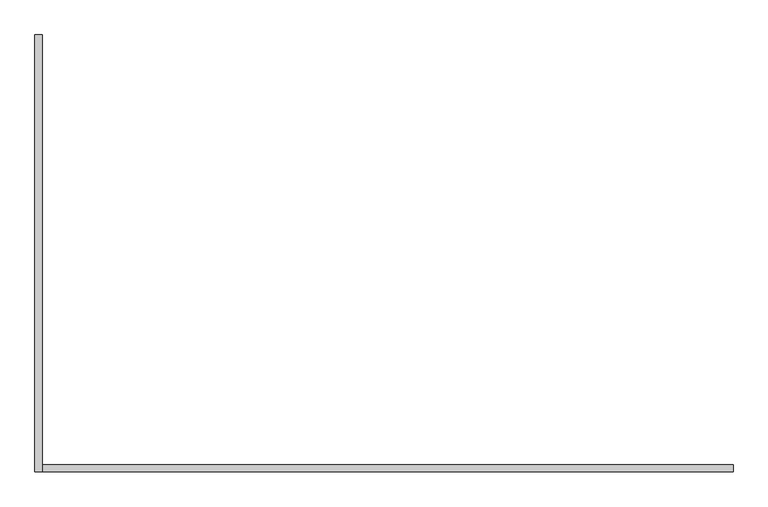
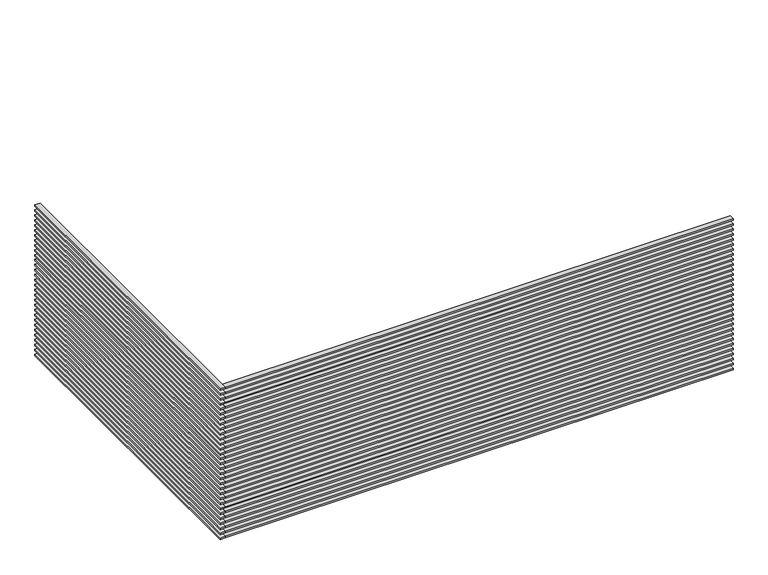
"""IFC4 building model written with IfcOpenShell, lengths in millimetres: proxy geometry, 水平ルーバー（Ｌ型） : h30d100@100."""

from ifc_helpers import new_model, si_unit, frame, origin, place, context, project, spatial, polyline, outline, extrude, source, transform, mapped, element, save


def generic_models_eebe7cf6(model_context):
    return source(origin(), model_context, "Body", "SweptSolid", [
        extrude(outline(polyline([(-200.0, 6100.0), (-200.0, 0.0), (-300.0, 0.0), (-300.0, 6100.0), (-200.0, 6100.0)])), frame((0.0, 0.0, 2985.0), z_axis=(0.0, 0.0, 1.0), x_axis=(1.0, 0.0, 0.0)), (0.0, 0.0, 1.0), 30.0),
        extrude(outline(polyline([(-200.0, 6100.0), (-200.0, 0.0), (-300.0, 0.0), (-300.0, 6100.0), (-200.0, 6100.0)])), frame((0.0, 0.0, 2885.0), z_axis=(0.0, 0.0, 1.0), x_axis=(1.0, 0.0, 0.0)), (0.0, 0.0, 1.0), 30.0),
        extrude(outline(polyline([(-200.0, 6100.0), (-200.0, 0.0), (-300.0, 0.0), (-300.0, 6100.0), (-200.0, 6100.0)])), frame((0.0, 0.0, 2785.0), z_axis=(0.0, 0.0, 1.0), x_axis=(1.0, 0.0, 0.0)), (0.0, 0.0, 1.0), 30.0),
        extrude(outline(polyline([(-200.0, 6100.0), (-200.0, 0.0), (-300.0, 0.0), (-300.0, 6100.0), (-200.0, 6100.0)])), frame((0.0, 0.0, 2685.0), z_axis=(0.0, 0.0, 1.0), x_axis=(1.0, 0.0, 0.0)), (0.0, 0.0, 1.0), 30.0),
        extrude(outline(polyline([(-200.0, 6100.0), (-200.0, 0.0), (-300.0, 0.0), (-300.0, 6100.0), (-200.0, 6100.0)])), frame((0.0, 0.0, 2585.0), z_axis=(0.0, 0.0, 1.0), x_axis=(1.0, 0.0, 0.0)), (0.0, 0.0, 1.0), 30.0),
        extrude(outline(polyline([(-200.0, 6100.0), (-200.0, 0.0), (-300.0, 0.0), (-300.0, 6100.0), (-200.0, 6100.0)])), frame((0.0, 0.0, 2485.0), z_axis=(0.0, 0.0, 1.0), x_axis=(1.0, 0.0, 0.0)), (0.0, 0.0, 1.0), 30.0),
        extrude(outline(polyline([(-200.0, 6100.0), (-200.0, 0.0), (-300.0, 0.0), (-300.0, 6100.0), (-200.0, 6100.0)])), frame((0.0, 0.0, 2385.0), z_axis=(0.0, 0.0, 1.0), x_axis=(1.0, 0.0, 0.0)), (0.0, 0.0, 1.0), 30.0),
        extrude(outline(polyline([(-200.0, 6100.0), (-200.0, 0.0), (-300.0, 0.0), (-300.0, 6100.0), (-200.0, 6100.0)])), frame((0.0, 0.0, 2285.0), z_axis=(0.0, 0.0, 1.0), x_axis=(1.0, 0.0, 0.0)), (0.0, 0.0, 1.0), 30.0),
        extrude(outline(polyline([(-200.0, 6100.0), (-200.0, 0.0), (-300.0, 0.0), (-300.0, 6100.0), (-200.0, 6100.0)])), frame((0.0, 0.0, 2185.0), z_axis=(0.0, 0.0, 1.0), x_axis=(1.0, 0.0, 0.0)), (0.0, 0.0, 1.0), 30.0),
        extrude(outline(polyline([(-200.0, 6100.0), (-200.0, 0.0), (-300.0, 0.0), (-300.0, 6100.0), (-200.0, 6100.0)])), frame((0.0, 0.0, 2085.0), z_axis=(0.0, 0.0, 1.0), x_axis=(1.0, 0.0, 0.0)), (0.0, 0.0, 1.0), 30.0),
        extrude(outline(polyline([(-200.0, 6100.0), (-200.0, 0.0), (-300.0, 0.0), (-300.0, 6100.0), (-200.0, 6100.0)])), frame((0.0, 0.0, 1985.0), z_axis=(0.0, 0.0, 1.0), x_axis=(1.0, 0.0, 0.0)), (0.0, 0.0, 1.0), 30.0),
        extrude(outline(polyline([(-200.0, 6100.0), (-200.0, 0.0), (-300.0, 0.0), (-300.0, 6100.0), (-200.0, 6100.0)])), frame((0.0, 0.0, 1885.0), z_axis=(0.0, 0.0, 1.0), x_axis=(1.0, 0.0, 0.0)), (0.0, 0.0, 1.0), 30.0),
        extrude(outline(polyline([(-200.0, 6100.0), (-200.0, 0.0), (-300.0, 0.0), (-300.0, 6100.0), (-200.0, 6100.0)])), frame((0.0, 0.0, 1785.0), z_axis=(0.0, 0.0, 1.0), x_axis=(1.0, 0.0, 0.0)), (0.0, 0.0, 1.0), 30.0),
        extrude(outline(polyline([(-200.0, 6100.0), (-200.0, 0.0), (-300.0, 0.0), (-300.0, 6100.0), (-200.0, 6100.0)])), frame((0.0, 0.0, 1685.0), z_axis=(0.0, 0.0, 1.0), x_axis=(1.0, 0.0, 0.0)), (0.0, 0.0, 1.0), 30.0),
        extrude(outline(polyline([(-200.0, 6100.0), (-200.0, 0.0), (-300.0, 0.0), (-300.0, 6100.0), (-200.0, 6100.0)])), frame((0.0, 0.0, 1585.0), z_axis=(0.0, 0.0, 1.0), x_axis=(1.0, 0.0, 0.0)), (0.0, 0.0, 1.0), 30.0),
        extrude(outline(polyline([(-200.0, 6100.0), (-200.0, 0.0), (-300.0, 0.0), (-300.0, 6100.0), (-200.0, 6100.0)])), frame((0.0, 0.0, 1485.0), z_axis=(0.0, 0.0, 1.0), x_axis=(1.0, 0.0, 0.0)), (0.0, 0.0, 1.0), 30.0),
        extrude(outline(polyline([(-200.0, 6100.0), (-200.0, 0.0), (-300.0, 0.0), (-300.0, 6100.0), (-200.0, 6100.0)])), frame((0.0, 0.0, 1385.0), z_axis=(0.0, 0.0, 1.0), x_axis=(1.0, 0.0, 0.0)), (0.0, 0.0, 1.0), 30.0),
        extrude(outline(polyline([(-200.0, 6100.0), (-200.0, 0.0), (-300.0, 0.0), (-300.0, 6100.0), (-200.0, 6100.0)])), frame((0.0, 0.0, 1285.0), z_axis=(0.0, 0.0, 1.0), x_axis=(1.0, 0.0, 0.0)), (0.0, 0.0, 1.0), 30.0),
        extrude(outline(polyline([(-200.0, 6100.0), (-200.0, 0.0), (-300.0, 0.0), (-300.0, 6100.0), (-200.0, 6100.0)])), frame((0.0, 0.0, 1185.0), z_axis=(0.0, 0.0, 1.0), x_axis=(1.0, 0.0, 0.0)), (0.0, 0.0, 1.0), 30.0),
        extrude(outline(polyline([(-200.0, 6100.0), (-200.0, 0.0), (-300.0, 0.0), (-300.0, 6100.0), (-200.0, 6100.0)])), frame((0.0, 0.0, 1085.0), z_axis=(0.0, 0.0, 1.0), x_axis=(1.0, 0.0, 0.0)), (0.0, 0.0, 1.0), 30.0),
        extrude(outline(polyline([(-200.0, 6100.0), (-200.0, 0.0), (-300.0, 0.0), (-300.0, 6100.0), (-200.0, 6100.0)])), frame((0.0, 0.0, 985.0), z_axis=(0.0, 0.0, 1.0), x_axis=(1.0, 0.0, 0.0)), (0.0, 0.0, 1.0), 30.0),
        extrude(outline(polyline([(-200.0, 6100.0), (-200.0, 0.0), (-300.0, 0.0), (-300.0, 6100.0), (-200.0, 6100.0)])), frame((0.0, 0.0, 885.0), z_axis=(0.0, 0.0, 1.0), x_axis=(1.0, 0.0, 0.0)), (0.0, 0.0, 1.0), 30.0),
        extrude(outline(polyline([(-200.0, 6100.0), (-200.0, 0.0), (-300.0, 0.0), (-300.0, 6100.0), (-200.0, 6100.0)])), frame((0.0, 0.0, 785.0), z_axis=(0.0, 0.0, 1.0), x_axis=(1.0, 0.0, 0.0)), (0.0, 0.0, 1.0), 30.0),
        extrude(outline(polyline([(-200.0, 6100.0), (-200.0, 0.0), (-300.0, 0.0), (-300.0, 6100.0), (-200.0, 6100.0)])), frame((0.0, 0.0, 685.0), z_axis=(0.0, 0.0, 1.0), x_axis=(1.0, 0.0, 0.0)), (0.0, 0.0, 1.0), 30.0),
        extrude(outline(polyline([(-200.0, 6100.0), (-200.0, 0.0), (-300.0, 0.0), (-300.0, 6100.0), (-200.0, 6100.0)])), frame((0.0, 0.0, 585.0), z_axis=(0.0, 0.0, 1.0), x_axis=(1.0, 0.0, 0.0)), (0.0, 0.0, 1.0), 30.0),
        extrude(outline(polyline([(-200.0, 6100.0), (-200.0, 0.0), (-300.0, 0.0), (-300.0, 6100.0), (-200.0, 6100.0)])), frame((0.0, 0.0, 485.0), z_axis=(0.0, 0.0, 1.0), x_axis=(1.0, 0.0, 0.0)), (0.0, 0.0, 1.0), 30.0),
        extrude(outline(polyline([(-200.0, 6100.0), (-200.0, 0.0), (-300.0, 0.0), (-300.0, 6100.0), (-200.0, 6100.0)])), frame((0.0, 0.0, 385.0), z_axis=(0.0, 0.0, 1.0), x_axis=(1.0, 0.0, 0.0)), (0.0, 0.0, 1.0), 30.0),
        extrude(outline(polyline([(-200.0, 6100.0), (-200.0, 0.0), (-300.0, 0.0), (-300.0, 6100.0), (-200.0, 6100.0)])), frame((0.0, 0.0, 285.0), z_axis=(0.0, 0.0, 1.0), x_axis=(1.0, 0.0, 0.0)), (0.0, 0.0, 1.0), 30.0),
        extrude(outline(polyline([(-200.0, 6100.0), (-200.0, 0.0), (-300.0, 0.0), (-300.0, 6100.0), (-200.0, 6100.0)])), frame((0.0, 0.0, 185.0), z_axis=(0.0, 0.0, 1.0), x_axis=(1.0, 0.0, 0.0)), (0.0, 0.0, 1.0), 30.0),
        extrude(outline(polyline([(-200.0, 6100.0), (-200.0, 0.0), (-300.0, 0.0), (-300.0, 6100.0), (-200.0, 6100.0)])), frame((0.0, 0.0, 85.0), z_axis=(0.0, 0.0, 1.0), x_axis=(1.0, 0.0, 0.0)), (0.0, 0.0, 1.0), 30.0),
        extrude(outline(polyline([(-200.0, 6100.0), (-200.0, 0.0), (-300.0, 0.0), (-300.0, 6100.0), (-200.0, 6100.0)])), frame((0.0, 0.0, -15.0), z_axis=(0.0, 0.0, 1.0), x_axis=(1.0, 0.0, 0.0)), (0.0, 0.0, 1.0), 30.0),
        extrude(outline(polyline([(-200.0, 100.0), (9450.0, 100.0), (9450.0, 0.0), (-200.0, 0.0), (-200.0, 100.0)])), frame((0.0, 0.0, 2985.0), z_axis=(0.0, 0.0, 1.0), x_axis=(1.0, 0.0, 0.0)), (0.0, 0.0, 1.0), 30.0),
        extrude(outline(polyline([(-200.0, 100.0), (9450.0, 100.0), (9450.0, 0.0), (-200.0, 0.0), (-200.0, 100.0)])), frame((0.0, 0.0, 2885.0), z_axis=(0.0, 0.0, 1.0), x_axis=(1.0, 0.0, 0.0)), (0.0, 0.0, 1.0), 30.0),
        extrude(outline(polyline([(-200.0, 100.0), (9450.0, 100.0), (9450.0, 0.0), (-200.0, 0.0), (-200.0, 100.0)])), frame((0.0, 0.0, 2785.0), z_axis=(0.0, 0.0, 1.0), x_axis=(1.0, 0.0, 0.0)), (0.0, 0.0, 1.0), 30.0),
        extrude(outline(polyline([(-200.0, 100.0), (9450.0, 100.0), (9450.0, 0.0), (-200.0, 0.0), (-200.0, 100.0)])), frame((0.0, 0.0, 2685.0), z_axis=(0.0, 0.0, 1.0), x_axis=(1.0, 0.0, 0.0)), (0.0, 0.0, 1.0), 30.0),
        extrude(outline(polyline([(-200.0, 100.0), (9450.0, 100.0), (9450.0, 0.0), (-200.0, 0.0), (-200.0, 100.0)])), frame((0.0, 0.0, 2585.0), z_axis=(0.0, 0.0, 1.0), x_axis=(1.0, 0.0, 0.0)), (0.0, 0.0, 1.0), 30.0),
        extrude(outline(polyline([(-200.0, 100.0), (9450.0, 100.0), (9450.0, 0.0), (-200.0, 0.0), (-200.0, 100.0)])), frame((0.0, 0.0, 2485.0), z_axis=(0.0, 0.0, 1.0), x_axis=(1.0, 0.0, 0.0)), (0.0, 0.0, 1.0), 30.0),
        extrude(outline(polyline([(-200.0, 100.0), (9450.0, 100.0), (9450.0, 0.0), (-200.0, 0.0), (-200.0, 100.0)])), frame((0.0, 0.0, 2385.0), z_axis=(0.0, 0.0, 1.0), x_axis=(1.0, 0.0, 0.0)), (0.0, 0.0, 1.0), 30.0),
        extrude(outline(polyline([(-200.0, 100.0), (9450.0, 100.0), (9450.0, 0.0), (-200.0, 0.0), (-200.0, 100.0)])), frame((0.0, 0.0, 2285.0), z_axis=(0.0, 0.0, 1.0), x_axis=(1.0, 0.0, 0.0)), (0.0, 0.0, 1.0), 30.0),
        extrude(outline(polyline([(-200.0, 100.0), (9450.0, 100.0), (9450.0, 0.0), (-200.0, 0.0), (-200.0, 100.0)])), frame((0.0, 0.0, 2185.0), z_axis=(0.0, 0.0, 1.0), x_axis=(1.0, 0.0, 0.0)), (0.0, 0.0, 1.0), 30.0),
        extrude(outline(polyline([(-200.0, 100.0), (9450.0, 100.0), (9450.0, 0.0), (-200.0, 0.0), (-200.0, 100.0)])), frame((0.0, 0.0, 2085.0), z_axis=(0.0, 0.0, 1.0), x_axis=(1.0, 0.0, 0.0)), (0.0, 0.0, 1.0), 30.0),
        extrude(outline(polyline([(-200.0, 100.0), (9450.0, 100.0), (9450.0, 0.0), (-200.0, 0.0), (-200.0, 100.0)])), frame((0.0, 0.0, 1985.0), z_axis=(0.0, 0.0, 1.0), x_axis=(1.0, 0.0, 0.0)), (0.0, 0.0, 1.0), 30.0),
        extrude(outline(polyline([(-200.0, 100.0), (9450.0, 100.0), (9450.0, 0.0), (-200.0, 0.0), (-200.0, 100.0)])), frame((0.0, 0.0, 1885.0), z_axis=(0.0, 0.0, 1.0), x_axis=(1.0, 0.0, 0.0)), (0.0, 0.0, 1.0), 30.0),
        extrude(outline(polyline([(-200.0, 100.0), (9450.0, 100.0), (9450.0, 0.0), (-200.0, 0.0), (-200.0, 100.0)])), frame((0.0, 0.0, 1785.0), z_axis=(0.0, 0.0, 1.0), x_axis=(1.0, 0.0, 0.0)), (0.0, 0.0, 1.0), 30.0),
        extrude(outline(polyline([(-200.0, 100.0), (9450.0, 100.0), (9450.0, 0.0), (-200.0, 0.0), (-200.0, 100.0)])), frame((0.0, 0.0, 1685.0), z_axis=(0.0, 0.0, 1.0), x_axis=(1.0, 0.0, 0.0)), (0.0, 0.0, 1.0), 30.0),
        extrude(outline(polyline([(-200.0, 100.0), (9450.0, 100.0), (9450.0, 0.0), (-200.0, 0.0), (-200.0, 100.0)])), frame((0.0, 0.0, 1585.0), z_axis=(0.0, 0.0, 1.0), x_axis=(1.0, 0.0, 0.0)), (0.0, 0.0, 1.0), 30.0),
        extrude(outline(polyline([(-200.0, 100.0), (9450.0, 100.0), (9450.0, 0.0), (-200.0, 0.0), (-200.0, 100.0)])), frame((0.0, 0.0, 1485.0), z_axis=(0.0, 0.0, 1.0), x_axis=(1.0, 0.0, 0.0)), (0.0, 0.0, 1.0), 30.0),
        extrude(outline(polyline([(-200.0, 100.0), (9450.0, 100.0), (9450.0, 0.0), (-200.0, 0.0), (-200.0, 100.0)])), frame((0.0, 0.0, 1385.0), z_axis=(0.0, 0.0, 1.0), x_axis=(1.0, 0.0, 0.0)), (0.0, 0.0, 1.0), 30.0),
        extrude(outline(polyline([(-200.0, 100.0), (9450.0, 100.0), (9450.0, 0.0), (-200.0, 0.0), (-200.0, 100.0)])), frame((0.0, 0.0, 1285.0), z_axis=(0.0, 0.0, 1.0), x_axis=(1.0, 0.0, 0.0)), (0.0, 0.0, 1.0), 30.0),
        extrude(outline(polyline([(-200.0, 100.0), (9450.0, 100.0), (9450.0, 0.0), (-200.0, 0.0), (-200.0, 100.0)])), frame((0.0, 0.0, 1185.0), z_axis=(0.0, 0.0, 1.0), x_axis=(1.0, 0.0, 0.0)), (0.0, 0.0, 1.0), 30.0),
        extrude(outline(polyline([(-200.0, 100.0), (9450.0, 100.0), (9450.0, 0.0), (-200.0, 0.0), (-200.0, 100.0)])), frame((0.0, 0.0, 1085.0), z_axis=(0.0, 0.0, 1.0), x_axis=(1.0, 0.0, 0.0)), (0.0, 0.0, 1.0), 30.0),
        extrude(outline(polyline([(-200.0, 100.0), (9450.0, 100.0), (9450.0, 0.0), (-200.0, 0.0), (-200.0, 100.0)])), frame((0.0, 0.0, 985.0), z_axis=(0.0, 0.0, 1.0), x_axis=(1.0, 0.0, 0.0)), (0.0, 0.0, 1.0), 30.0),
        extrude(outline(polyline([(-200.0, 100.0), (9450.0, 100.0), (9450.0, 0.0), (-200.0, 0.0), (-200.0, 100.0)])), frame((0.0, 0.0, 885.0), z_axis=(0.0, 0.0, 1.0), x_axis=(1.0, 0.0, 0.0)), (0.0, 0.0, 1.0), 30.0),
        extrude(outline(polyline([(-200.0, 100.0), (9450.0, 100.0), (9450.0, 0.0), (-200.0, 0.0), (-200.0, 100.0)])), frame((0.0, 0.0, 785.0), z_axis=(0.0, 0.0, 1.0), x_axis=(1.0, 0.0, 0.0)), (0.0, 0.0, 1.0), 30.0),
        extrude(outline(polyline([(-200.0, 100.0), (9450.0, 100.0), (9450.0, 0.0), (-200.0, 0.0), (-200.0, 100.0)])), frame((0.0, 0.0, 685.0), z_axis=(0.0, 0.0, 1.0), x_axis=(1.0, 0.0, 0.0)), (0.0, 0.0, 1.0), 30.0),
        extrude(outline(polyline([(-200.0, 100.0), (9450.0, 100.0), (9450.0, 0.0), (-200.0, 0.0), (-200.0, 100.0)])), frame((0.0, 0.0, 585.0), z_axis=(0.0, 0.0, 1.0), x_axis=(1.0, 0.0, 0.0)), (0.0, 0.0, 1.0), 30.0),
        extrude(outline(polyline([(-200.0, 100.0), (9450.0, 100.0), (9450.0, 0.0), (-200.0, 0.0), (-200.0, 100.0)])), frame((0.0, 0.0, 485.0), z_axis=(0.0, 0.0, 1.0), x_axis=(1.0, 0.0, 0.0)), (0.0, 0.0, 1.0), 30.0),
        extrude(outline(polyline([(-200.0, 100.0), (9450.0, 100.0), (9450.0, 0.0), (-200.0, 0.0), (-200.0, 100.0)])), frame((0.0, 0.0, 385.0), z_axis=(0.0, 0.0, 1.0), x_axis=(1.0, 0.0, 0.0)), (0.0, 0.0, 1.0), 30.0),
        extrude(outline(polyline([(-200.0, 100.0), (9450.0, 100.0), (9450.0, 0.0), (-200.0, 0.0), (-200.0, 100.0)])), frame((0.0, 0.0, 285.0), z_axis=(0.0, 0.0, 1.0), x_axis=(1.0, 0.0, 0.0)), (0.0, 0.0, 1.0), 30.0),
        extrude(outline(polyline([(-200.0, 100.0), (9450.0, 100.0), (9450.0, 0.0), (-200.0, 0.0), (-200.0, 100.0)])), frame((0.0, 0.0, 185.0), z_axis=(0.0, 0.0, 1.0), x_axis=(1.0, 0.0, 0.0)), (0.0, 0.0, 1.0), 30.0),
        extrude(outline(polyline([(-200.0, 100.0), (9450.0, 100.0), (9450.0, 0.0), (-200.0, 0.0), (-200.0, 100.0)])), frame((0.0, 0.0, 85.0), z_axis=(0.0, 0.0, 1.0), x_axis=(1.0, 0.0, 0.0)), (0.0, 0.0, 1.0), 30.0),
        extrude(outline(polyline([(-200.0, 100.0), (9450.0, 100.0), (9450.0, 0.0), (-200.0, 0.0), (-200.0, 100.0)])), frame((0.0, 0.0, -15.0), z_axis=(0.0, 0.0, 1.0), x_axis=(1.0, 0.0, 0.0)), (0.0, 0.0, 1.0), 30.0),
    ])


if __name__ == "__main__":
    model = new_model("IFC4")
    model_context = context("Model", 3, world=origin())
    ifc_project = project(units=[si_unit("LENGTHUNIT", "METRE", prefix="MILLI")], contexts=[model_context])
    site = spatial("IfcSite", under=ifc_project)
    building = spatial("IfcBuilding", under=site)
    placement = place(None, origin())
    generic_models_shape = generic_models_eebe7cf6(model_context)
    element("IfcBuildingElementProxy", 1, Name="水平ルーバー（Ｌ型） : h30d100@100", ObjectType="水平ルーバー（Ｌ型） : h30d100@100", at=placement, inside=building, context=model_context, shape_type="MappedRepresentation", body=[
        mapped(generic_models_shape, transform((0.0, 0.0, 0.0), x_axis=(1.0, 0.0, 0.0), y_axis=(0.0, 1.0, 0.0), z_axis=(0.0, 0.0, 1.0))),
    ])
    save(model, "model.ifc")
